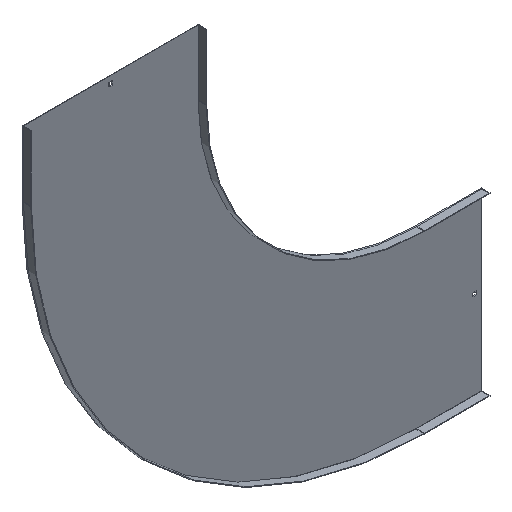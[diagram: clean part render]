
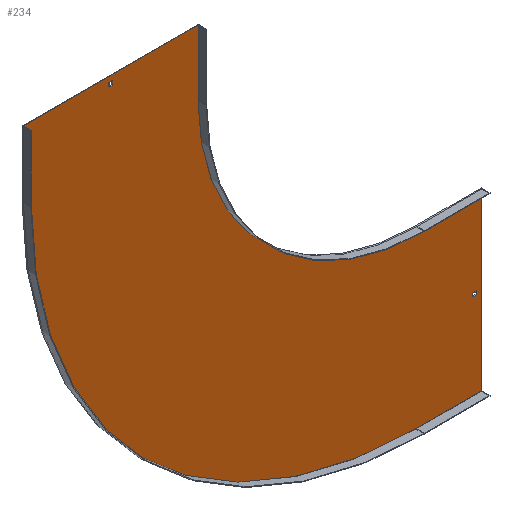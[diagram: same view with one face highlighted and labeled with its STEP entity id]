
A CAD part, isometric view. The second image highlights one B-rep face of the part: STEP entity #234.
In plain terms, the highlighted planar face has unit normal (0, -1, 0).
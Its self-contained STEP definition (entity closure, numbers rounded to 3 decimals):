
#8 = LINE ( 'NONE', #478, #96 ) ;
#13 = ORIENTED_EDGE ( 'NONE', *, *, #131, .T. ) ;
#18 = CARTESIAN_POINT ( 'NONE',  ( 0., -1.5, 0. ) ) ;
#21 = LINE ( 'NONE', #273, #121 ) ;
#28 = VECTOR ( 'NONE', #805, 1000. ) ;
#31 = CARTESIAN_POINT ( 'NONE',  ( -500., -1.5, 150. ) ) ;
#37 = CARTESIAN_POINT ( 'NONE',  ( 129., -1.5, -703.25 ) ) ;
#38 = DIRECTION ( 'NONE',  ( 1., 0., 0. ) ) ;
#44 = CARTESIAN_POINT ( 'NONE',  ( 0., -1.5, 129. ) ) ;
#51 = ORIENTED_EDGE ( 'NONE', *, *, #448, .F. ) ;
#54 = EDGE_CURVE ( 'NONE', #542, #186, #264, .T. ) ;
#63 = CARTESIAN_POINT ( 'NONE',  ( 150., -1.5, -500. ) ) ;
#64 = EDGE_CURVE ( 'NONE', #644, #704, #469, .T. ) ;
#66 = VECTOR ( 'NONE', #771, 1000. ) ;
#67 = DIRECTION ( 'NONE',  ( 1., 0., 0. ) ) ;
#73 = DIRECTION ( 'NONE',  ( 0., 0., -1. ) ) ;
#74 = DIRECTION ( 'NONE',  ( 0., 0., -1. ) ) ;
#76 = CARTESIAN_POINT ( 'NONE',  ( 150., -1.5, -900. ) ) ;
#77 = CARTESIAN_POINT ( 'NONE',  ( -900., -1.5, 150. ) ) ;
#81 = VECTOR ( 'NONE', #606, 1000. ) ;
#92 = CARTESIAN_POINT ( 'NONE',  ( 0., -1.5, 138. ) ) ;
#95 = LINE ( 'NONE', #31, #489 ) ;
#96 = VECTOR ( 'NONE', #261, 1000. ) ;
#107 = CARTESIAN_POINT ( 'NONE',  ( -696.75, -1.5, 138. ) ) ;
#114 = VERTEX_POINT ( 'NONE', #432 ) ;
#121 = VECTOR ( 'NONE', #548, 1000. ) ;
#131 = EDGE_CURVE ( 'NONE', #772, #392, #288, .T. ) ;
#133 = ORIENTED_EDGE ( 'NONE', *, *, #764, .T. ) ;
#141 = CARTESIAN_POINT ( 'NONE',  ( -500., -1.5, 0. ) ) ;
#151 = EDGE_CURVE ( 'NONE', #823, #216, #844, .T. ) ;
#155 = PLANE ( 'NONE',  #431 ) ;
#168 = FACE_OUTER_BOUND ( 'NONE', #742, .T. ) ;
#178 = VERTEX_POINT ( 'NONE', #506 ) ;
#182 = CARTESIAN_POINT ( 'NONE',  ( 0., -1.5, -500. ) ) ;
#184 = LINE ( 'NONE', #460, #307 ) ;
#186 = VERTEX_POINT ( 'NONE', #228 ) ;
#189 = LINE ( 'NONE', #741, #540 ) ;
#192 = CARTESIAN_POINT ( 'NONE',  ( -696.75, -1.5, 0. ) ) ;
#215 = DIRECTION ( 'NONE',  ( 0., 1., 0. ) ) ;
#216 = VERTEX_POINT ( 'NONE', #107 ) ;
#228 = CARTESIAN_POINT ( 'NONE',  ( -900., -1.5, 0. ) ) ;
#234 = ADVANCED_FACE ( 'NONE', ( #296, #168, #442 ), #155, .T. ) ;
#235 = DIRECTION ( 'NONE',  ( 0., 0., -1. ) ) ;
#239 = AXIS2_PLACEMENT_3D ( 'NONE', #18, #215, #73 ) ;
#244 = ORIENTED_EDGE ( 'NONE', *, *, #694, .F. ) ;
#261 = DIRECTION ( 'NONE',  ( 0., 0., -1. ) ) ;
#264 = CIRCLE ( 'NONE', #239, 900. ) ;
#271 = DIRECTION ( 'NONE',  ( 0., 0., -1. ) ) ;
#273 = CARTESIAN_POINT ( 'NONE',  ( -901.5, -1.5, 150. ) ) ;
#288 = LINE ( 'NONE', #44, #66 ) ;
#289 = VERTEX_POINT ( 'NONE', #661 ) ;
#291 = VERTEX_POINT ( 'NONE', #592 ) ;
#296 = FACE_BOUND ( 'NONE', #434, .T. ) ;
#307 = VECTOR ( 'NONE', #600, 1000. ) ;
#316 = DIRECTION ( 'NONE',  ( -1., 0., 0. ) ) ;
#319 = CARTESIAN_POINT ( 'NONE',  ( -703.25, -1.5, 138. ) ) ;
#320 = ORIENTED_EDGE ( 'NONE', *, *, #151, .T. ) ;
#336 = CARTESIAN_POINT ( 'NONE',  ( 0., -1.5, -500. ) ) ;
#340 = LINE ( 'NONE', #406, #28 ) ;
#352 = EDGE_CURVE ( 'NONE', #392, #823, #184, .T. ) ;
#383 = VERTEX_POINT ( 'NONE', #77 ) ;
#387 = VECTOR ( 'NONE', #74, 1000. ) ;
#390 = EDGE_CURVE ( 'NONE', #289, #621, #8, .T. ) ;
#392 = VERTEX_POINT ( 'NONE', #688 ) ;
#401 = DIRECTION ( 'NONE',  ( 0., 0., 1. ) ) ;
#402 = EDGE_CURVE ( 'NONE', #383, #570, #21, .T. ) ;
#404 = EDGE_LOOP ( 'NONE', ( #320, #133, #13, #630 ) ) ;
#406 = CARTESIAN_POINT ( 'NONE',  ( 138., -1.5, 0. ) ) ;
#408 = DIRECTION ( 'NONE',  ( 1., 0., 0. ) ) ;
#430 = EDGE_CURVE ( 'NONE', #178, #542, #467, .T. ) ;
#431 = AXIS2_PLACEMENT_3D ( 'NONE', #718, #846, #235 ) ;
#432 = CARTESIAN_POINT ( 'NONE',  ( 138., -1.5, -696.75 ) ) ;
#434 = EDGE_LOOP ( 'NONE', ( #51, #497, #809, #438 ) ) ;
#435 = EDGE_CURVE ( 'NONE', #291, #114, #340, .T. ) ;
#438 = ORIENTED_EDGE ( 'NONE', *, *, #390, .F. ) ;
#442 = FACE_BOUND ( 'NONE', #404, .T. ) ;
#448 = EDGE_CURVE ( 'NONE', #114, #289, #819, .T. ) ;
#460 = CARTESIAN_POINT ( 'NONE',  ( -703.25, -1.5, 0. ) ) ;
#467 = LINE ( 'NONE', #76, #81 ) ;
#469 = CIRCLE ( 'NONE', #537, 500. ) ;
#478 = CARTESIAN_POINT ( 'NONE',  ( 129., -1.5, 0. ) ) ;
#480 = DIRECTION ( 'NONE',  ( 0., -1., 0. ) ) ;
#482 = CARTESIAN_POINT ( 'NONE',  ( 0., -1.5, -696.75 ) ) ;
#489 = VECTOR ( 'NONE', #645, 1000. ) ;
#497 = ORIENTED_EDGE ( 'NONE', *, *, #435, .F. ) ;
#506 = CARTESIAN_POINT ( 'NONE',  ( 150., -1.5, -900. ) ) ;
#518 = EDGE_CURVE ( 'NONE', #570, #644, #95, .T. ) ;
#520 = LINE ( 'NONE', #804, #652 ) ;
#531 = CARTESIAN_POINT ( 'NONE',  ( 0., -1.5, -703.25 ) ) ;
#537 = AXIS2_PLACEMENT_3D ( 'NONE', #760, #480, #271 ) ;
#540 = VECTOR ( 'NONE', #401, 1000. ) ;
#542 = VERTEX_POINT ( 'NONE', #845 ) ;
#546 = LINE ( 'NONE', #192, #387 ) ;
#548 = DIRECTION ( 'NONE',  ( 1., 0., 0. ) ) ;
#570 = VERTEX_POINT ( 'NONE', #855 ) ;
#574 = ORIENTED_EDGE ( 'NONE', *, *, #64, .F. ) ;
#592 = CARTESIAN_POINT ( 'NONE',  ( 138., -1.5, -703.25 ) ) ;
#600 = DIRECTION ( 'NONE',  ( 0., 0., 1. ) ) ;
#601 = VECTOR ( 'NONE', #408, 1000. ) ;
#606 = DIRECTION ( 'NONE',  ( -1., 0., 0. ) ) ;
#621 = VERTEX_POINT ( 'NONE', #37 ) ;
#630 = ORIENTED_EDGE ( 'NONE', *, *, #352, .T. ) ;
#635 = VECTOR ( 'NONE', #38, 1000. ) ;
#636 = VECTOR ( 'NONE', #67, 1000. ) ;
#644 = VERTEX_POINT ( 'NONE', #141 ) ;
#645 = DIRECTION ( 'NONE',  ( 0., 0., -1. ) ) ;
#651 = VECTOR ( 'NONE', #316, 1000. ) ;
#652 = VECTOR ( 'NONE', #789, 1000. ) ;
#661 = CARTESIAN_POINT ( 'NONE',  ( 129., -1.5, -696.75 ) ) ;
#665 = EDGE_CURVE ( 'NONE', #704, #729, #745, .T. ) ;
#677 = ORIENTED_EDGE ( 'NONE', *, *, #518, .F. ) ;
#680 = ORIENTED_EDGE ( 'NONE', *, *, #54, .F. ) ;
#688 = CARTESIAN_POINT ( 'NONE',  ( -703.25, -1.5, 129. ) ) ;
#694 = EDGE_CURVE ( 'NONE', #729, #178, #520, .T. ) ;
#704 = VERTEX_POINT ( 'NONE', #336 ) ;
#711 = ORIENTED_EDGE ( 'NONE', *, *, #665, .F. ) ;
#718 = CARTESIAN_POINT ( 'NONE',  ( 0., -1.5, 0. ) ) ;
#729 = VERTEX_POINT ( 'NONE', #63 ) ;
#732 = EDGE_CURVE ( 'NONE', #186, #383, #189, .T. ) ;
#739 = ORIENTED_EDGE ( 'NONE', *, *, #430, .F. ) ;
#741 = CARTESIAN_POINT ( 'NONE',  ( -900., -1.5, 0. ) ) ;
#742 = EDGE_LOOP ( 'NONE', ( #766, #748, #680, #739, #244, #711, #574, #677 ) ) ;
#743 = CARTESIAN_POINT ( 'NONE',  ( -696.75, -1.5, 129. ) ) ;
#745 = LINE ( 'NONE', #182, #636 ) ;
#746 = LINE ( 'NONE', #531, #601 ) ;
#748 = ORIENTED_EDGE ( 'NONE', *, *, #732, .F. ) ;
#754 = EDGE_CURVE ( 'NONE', #621, #291, #746, .T. ) ;
#760 = CARTESIAN_POINT ( 'NONE',  ( 0., -1.5, 0. ) ) ;
#764 = EDGE_CURVE ( 'NONE', #216, #772, #546, .T. ) ;
#766 = ORIENTED_EDGE ( 'NONE', *, *, #402, .F. ) ;
#771 = DIRECTION ( 'NONE',  ( -1., 0., 0. ) ) ;
#772 = VERTEX_POINT ( 'NONE', #743 ) ;
#789 = DIRECTION ( 'NONE',  ( 0., 0., -1. ) ) ;
#804 = CARTESIAN_POINT ( 'NONE',  ( 150., -1.5, -498.5 ) ) ;
#805 = DIRECTION ( 'NONE',  ( 0., 0., 1. ) ) ;
#809 = ORIENTED_EDGE ( 'NONE', *, *, #754, .F. ) ;
#819 = LINE ( 'NONE', #482, #651 ) ;
#823 = VERTEX_POINT ( 'NONE', #319 ) ;
#844 = LINE ( 'NONE', #92, #635 ) ;
#845 = CARTESIAN_POINT ( 'NONE',  ( 0., -1.5, -900. ) ) ;
#846 = DIRECTION ( 'NONE',  ( 0., -1., 0. ) ) ;
#855 = CARTESIAN_POINT ( 'NONE',  ( -500., -1.5, 150. ) ) ;
